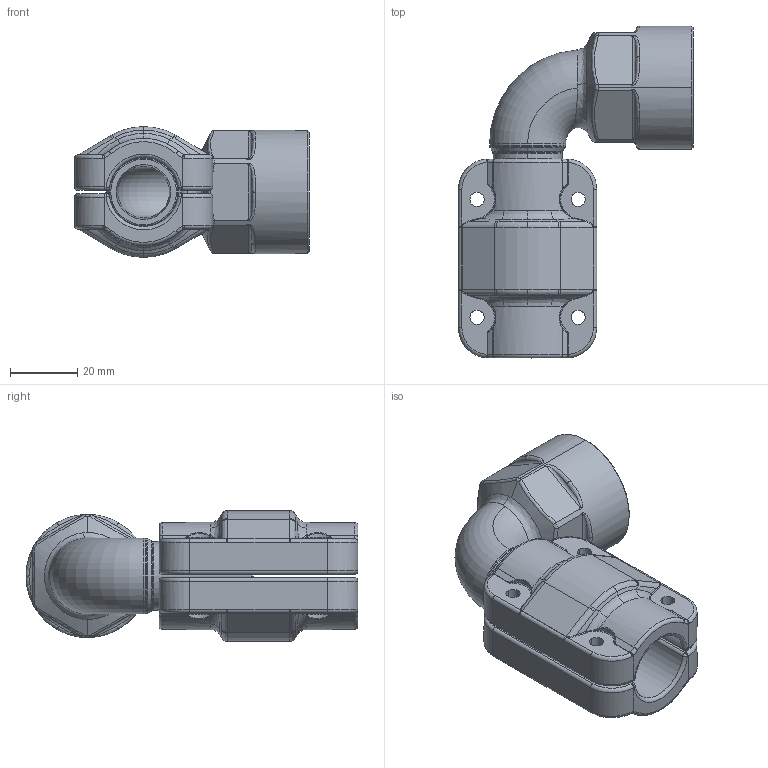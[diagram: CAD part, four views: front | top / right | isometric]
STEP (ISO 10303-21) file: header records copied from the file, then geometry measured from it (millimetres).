
FILE_DESCRIPTION((''),'2;1');
FILE_NAME('AU15111399_ASM','2017-05-12T',('Administrator'),(''),'PRO/ENGINEER BY PARAMETRIC TECHNOLOGY CORPORATION, 2009360','PRO/ENGINEER BY PARAMETRIC TECHNOLOGY CORPORATION, 2009360','');
FILE_SCHEMA(('AUTOMOTIVE_DESIGN_CC2 { 1 2 10303 214 -1 1 5 2 }'));
Length unit declared in the file: millimetre
Products named in the file (5): AU15111300; 201510020000_38; 201510020001_10; 2015100200_ASM; AU15111399_ASM
Assembly tree (4 placements, depth 3):
  AU15111399_ASM
    AU15111300
    2015100200_ASM
      201510020000_38
      201510020001_10
Bounding box: 69.72 x 98.49 x 38.8 mm (x, y, z)
Volume: 70369 mm3; surface area: 31802.4 mm2
Topology: 3 solids, 9 shells, 447 faces, 1065 edges, 637 vertices
Faces by surface type: bspline 156, cylinder 126, torus 86, plane 47, cone 24, sphere 8
Entity records: 23868 total; most frequent: CARTESIAN_POINT 11427, ORIENTED_EDGE 2130, DIRECTION 1604, PRESENTATION_STYLE_ASSIGNMENT 1068, STYLED_ITEM 1068, CURVE_STYLE 1065, EDGE_CURVE 1065, AXIS2_PLACEMENT_3D 692
